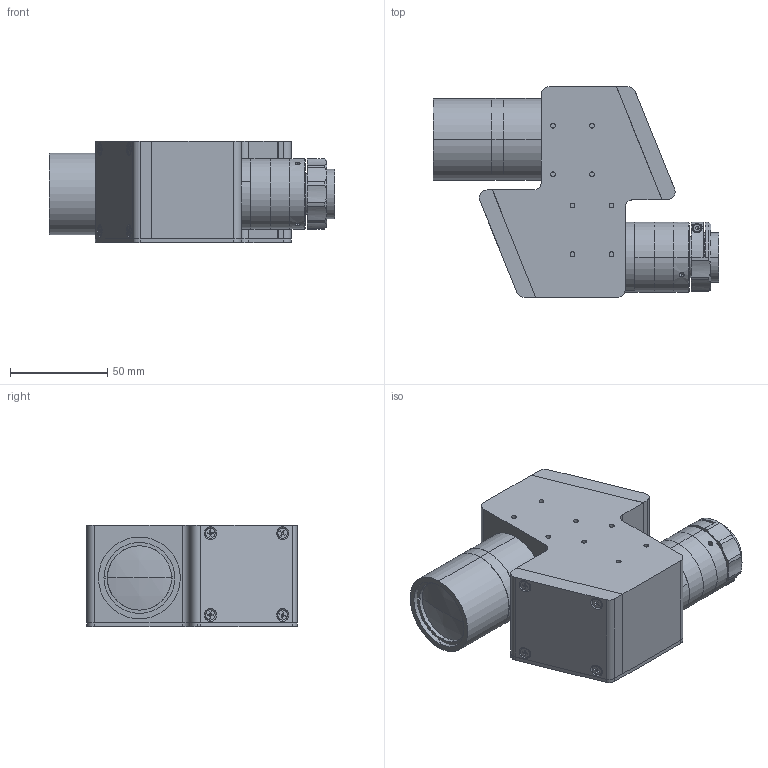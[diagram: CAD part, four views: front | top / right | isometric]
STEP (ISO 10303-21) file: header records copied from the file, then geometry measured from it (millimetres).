
FILE_DESCRIPTION (( 'STEP AP203' ), '1' );
FILE_NAME ('XF-MH07X358.STEP', '2020-08-24T07:17:06', ( 'canrill-02' ), ( '' ), 'SwSTEP 2.0', 'SolidWorks 2014', '' );
FILE_SCHEMA (( 'CONFIG_CONTROL_DESIGN' ));
Length unit declared in the file: millimetre
Products named in the file (1): XF-MH07X358
Bounding box: 146.47 x 108 x 52 mm (x, y, z)
Surface area: 54267.3 mm2 (no closed solid volume)
Topology: 0 solids, 33 shells, 418 faces, 1301 edges, 901 vertices
Faces by surface type: plane 213, cylinder 160, cone 41, sphere 2, torus 2
Entity records: 14788 total; most frequent: CARTESIAN_POINT 2940, DIRECTION 2573, ORIENTED_EDGE 2160, EDGE_CURVE 1299, VERTEX_POINT 901, AXIS2_PLACEMENT_3D 878, VECTOR 817, LINE 817
